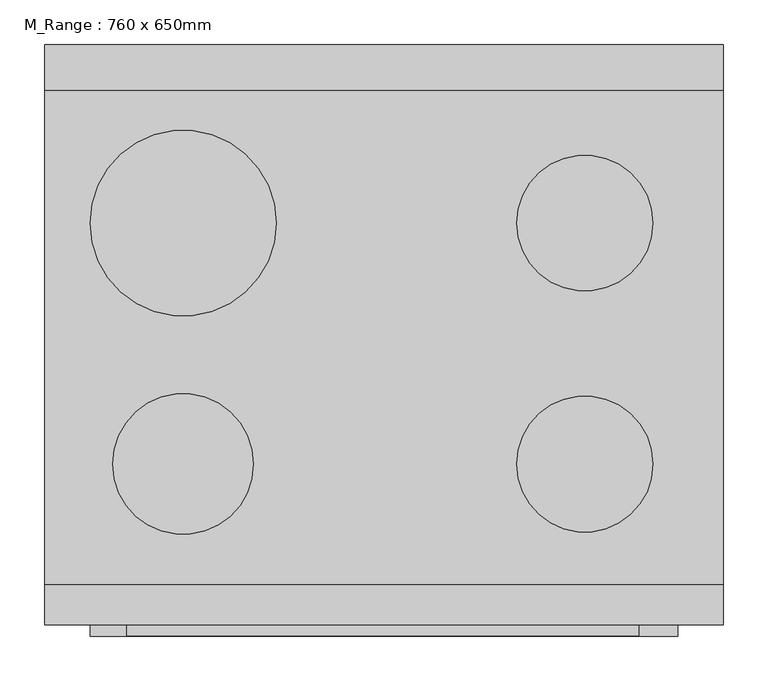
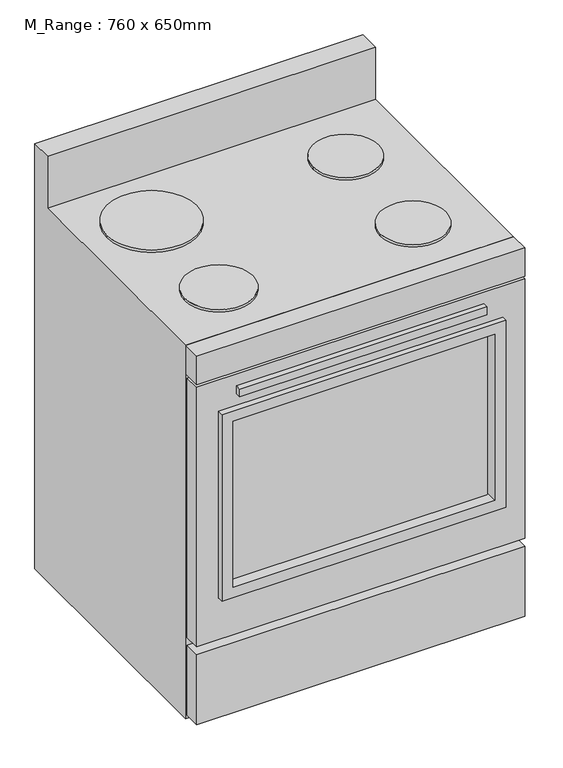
"""IFC4 building model written with IfcOpenShell, lengths in millimetres: electric appliance geometry, M_Range : 760 x 650mm."""

from ifc_helpers import new_model, si_unit, point, frame, frame_2d, origin, place, context, project, spatial, polyline, circle_curve, trimmed, segment, composite_curve, outline, extrude, faceted_brep, source, transform, mapped, element, save


def m_range_760_x_650mm_27bf323b(model_context):
    return source(origin(), model_context, "Body", "SolidModel", [
        faceted_brep([(760.0, 650.0, 1041.4), (760.0, 599.2, 1041.4), (760.0, 599.2, 914.4), (760.0, 45.0, 914.4), (760.0, 45.0, 0.0), (760.0, 650.0, 0.0), (0.0, 599.2, 914.4), (0.0, 599.2, 1041.4), (0.0, 650.0, 1041.4), (0.0, 650.0, 0.0), (0.0, 45.0, 0.0), (0.0, 45.0, 914.4), (734.6, 45.0, 889.2220355), (734.6, 45.0, 254.0), (25.4, 45.0, 254.0), (25.4, 45.0, 889.2220355), (25.4, 624.6, 889.2220355), (734.6, 624.6, 889.2220355), (25.4, 624.6, 254.0), (734.6, 624.6, 254.0)], [[[0, 1, 2, 3, 4, 5]], [[6, 7, 8, 9, 10, 11]], [[8, 0, 5, 9]], [[1, 0, 8, 7]], [[2, 1, 7, 6]], [[3, 11, 10, 4], [12, 13, 14, 15]], [[9, 5, 4, 10]], [[11, 3, 2, 6]], [[12, 15, 16, 17]], [[15, 14, 18, 16]], [[14, 13, 19, 18]], [[13, 12, 17, 19]], [[17, 16, 18, 19]]]),
        extrude(outline(polyline([(665.325, -12.7), (91.687309, -12.7), (91.687309, 0.0), (665.325, 0.0), (665.325, -12.7)])), frame((0.0, 0.0, 791.2768639), z_axis=(0.0, 0.0, 1.0), x_axis=(1.0, 0.0, 0.0)), (0.0, 0.0, 1.0), 19.05),
        extrude(outline(polyline([(681.2, 12.7), (76.2, 12.7), (76.2, 19.05), (681.2, 19.05), (681.2, 12.7)])), frame((0.0, 0.0, 330.2), z_axis=(0.0, 0.0, 1.0), x_axis=(1.0, 0.0, 0.0)), (0.0, 0.0, 1.0), 406.4),
        extrude(outline(polyline([(760.0, 0.0), (0.0, 0.0), (0.0, 45.0), (760.0, 45.0), (760.0, 0.0)])), frame((0.0, 0.0, 844.7720355), z_axis=(0.0, 0.0, 1.0), x_axis=(1.0, 0.0, 0.0)), (0.0, 0.0, 1.0), 69.6279645),
        extrude(outline(polyline([(762.0, 709.2), (762.0, 50.8), (304.8, 50.8), (304.8, 709.2), (762.0, 709.2)]), holes=[polyline([(736.6, 683.8), (330.2, 683.8), (330.2, 76.2), (736.6, 76.2), (736.6, 683.8)])]), frame((0.0, -12.7, 0.0), z_axis=(0.0, 1.0, 0.0), x_axis=(0.0, 0.0, 1.0)), (0.0, 0.0, 1.0), 38.1),
        extrude(outline(composite_curve([segment(trimmed(circle_curve(frame_2d((155.0, 450.0)), 104.2), [point((50.8, 450.0))], [point((259.2, 450.0))], False, "CARTESIAN"), True, "CONTINUOUS"), segment(trimmed(circle_curve(frame_2d((155.0, 450.0)), 104.2), [point((259.2, 450.0))], [point((50.8, 450.0))], False, "CARTESIAN"), True, "CONTINUOUS")], self_intersect=False)), frame((0.0, 0.0, 914.4), z_axis=(0.0, 0.0, 1.0), x_axis=(1.0, 0.0, 0.0)), (0.0, 0.0, 1.0), 6.35),
        extrude(outline(composite_curve([segment(trimmed(circle_curve(frame_2d((605.0, 450.0)), 76.2), [point((528.8, 450.0))], [point((681.2, 450.0))], False, "CARTESIAN"), True, "CONTINUOUS"), segment(trimmed(circle_curve(frame_2d((605.0, 450.0)), 76.2), [point((681.2, 450.0))], [point((528.8, 450.0))], False, "CARTESIAN"), True, "CONTINUOUS")], self_intersect=False)), frame((0.0, 0.0, 914.4), z_axis=(0.0, 0.0, 1.0), x_axis=(1.0, 0.0, 0.0)), (0.0, 0.0, 1.0), 6.35),
        extrude(outline(composite_curve([segment(trimmed(circle_curve(frame_2d((605.0, 180.0)), 76.2), [point((528.8, 180.0))], [point((681.2, 180.0))], False, "CARTESIAN"), True, "CONTINUOUS"), segment(trimmed(circle_curve(frame_2d((605.0, 180.0)), 76.2), [point((681.2, 180.0))], [point((528.8, 180.0))], False, "CARTESIAN"), True, "CONTINUOUS")], self_intersect=False)), frame((0.0, 0.0, 914.4), z_axis=(0.0, 0.0, 1.0), x_axis=(1.0, 0.0, 0.0)), (0.0, 0.0, 1.0), 6.35),
        extrude(outline(composite_curve([segment(trimmed(circle_curve(frame_2d((155.0, 180.0)), 78.8), [point((76.2, 180.0))], [point((233.8, 180.0))], False, "CARTESIAN"), True, "CONTINUOUS"), segment(trimmed(circle_curve(frame_2d((155.0, 180.0)), 78.8), [point((233.8, 180.0))], [point((76.2, 180.0))], False, "CARTESIAN"), True, "CONTINUOUS")], self_intersect=False)), frame((0.0, 0.0, 914.4), z_axis=(0.0, 0.0, 1.0), x_axis=(1.0, 0.0, 0.0)), (0.0, 0.0, 1.0), 6.35),
        extrude(outline(polyline([(838.4220355, 760.0), (838.4220355, 0.0), (203.2, 0.0), (203.2, 760.0), (838.4220355, 760.0)]), holes=[polyline([(762.0, 709.2), (304.8, 709.2), (304.8, 50.8), (762.0, 50.8), (762.0, 709.2)])]), frame((0.0, 0.0, 0.0), z_axis=(0.0, 1.0, 0.0), x_axis=(0.0, 0.0, 1.0)), (0.0, 0.0, 1.0), 38.1),
        extrude(outline(polyline([(760.0, 0.0), (0.0, 0.0), (0.0, 38.1), (760.0, 38.1), (760.0, 0.0)])), frame((0.0, 0.0, 12.7), z_axis=(0.0, 0.0, 1.0), x_axis=(1.0, 0.0, 0.0)), (0.0, 0.0, 1.0), 171.45),
    ])


if __name__ == "__main__":
    model = new_model("IFC4")
    model_context = context("Model", 3, world=origin())
    ifc_project = project(units=[si_unit("LENGTHUNIT", "METRE", prefix="MILLI")], contexts=[model_context])
    site = spatial("IfcSite", under=ifc_project)
    building = spatial("IfcBuilding", under=site)
    placement = place(None, origin())
    m_range_760_x_650mm_shape = m_range_760_x_650mm_27bf323b(model_context)
    element("IfcElectricAppliance", 1, ObjectType="M_Range : 760 x 650mm", at=placement, inside=building, context=model_context, shape_type="MappedRepresentation", body=[
        mapped(m_range_760_x_650mm_shape, transform((0.0, 0.0, 0.0), x_axis=(1.0, 0.0, 0.0), y_axis=(0.0, 1.0, 0.0), z_axis=(0.0, 0.0, 1.0))),
    ])
    save(model, "model.ifc")
